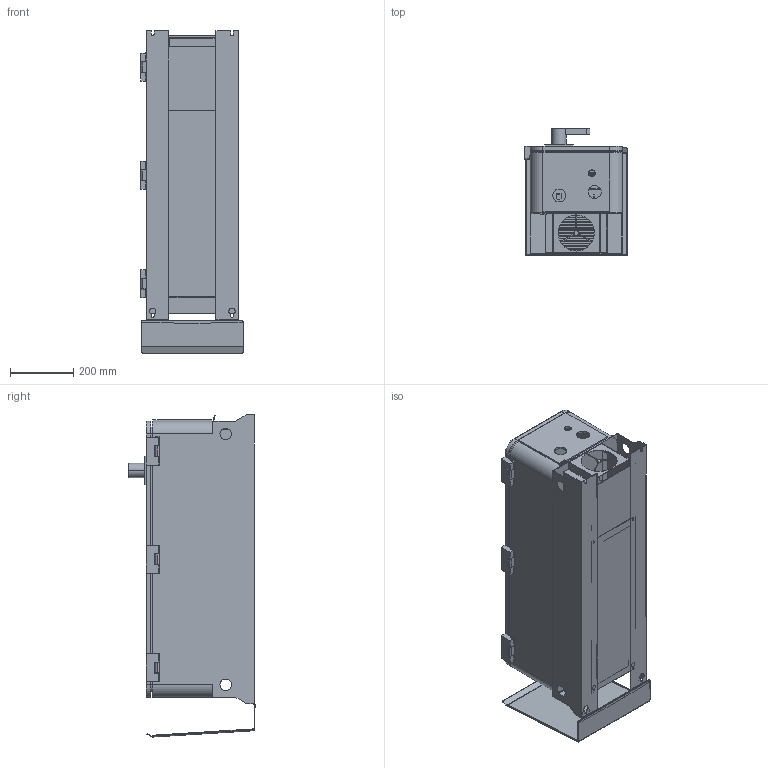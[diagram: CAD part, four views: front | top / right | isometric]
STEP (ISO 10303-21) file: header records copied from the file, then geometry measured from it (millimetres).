
FILE_DESCRIPTION(('STEP AP242'),'1');
FILE_NAME('atv650d30n4eu.stp','2021-09-28T21:10:28',('TraceParts'),('TraceParts S.A.'),'Spatial InterOp 3D',' ',' ');
FILE_SCHEMA(('AP242_MANAGED_MODEL_BASED_3D_ENGINEERING_MIM_LF {1 0 10303 442 1 1 4}'));
Length unit declared in the file: millimetre
Products named in the file (1): atv650d30n4eu_1
Bounding box: 322 x 400 x 1014.97 mm (x, y, z)
Volume: 14203455.6 mm3; surface area: 4556211.6 mm2
Topology: 14 solids, 19 shells, 2516 faces, 6586 edges, 4268 vertices
Faces by surface type: plane 1514, cylinder 876, cone 62, extrusion 28, torus 16, bspline 12, sphere 8
Entity records: 85331 total; most frequent: CARTESIAN_POINT 22531, ORIENTED_EDGE 13148, DIRECTION 12703, EDGE_CURVE 6574, VECTOR 4489, LINE 4461, VERTEX_POINT 4268, AXIS2_PLACEMENT_3D 4107
